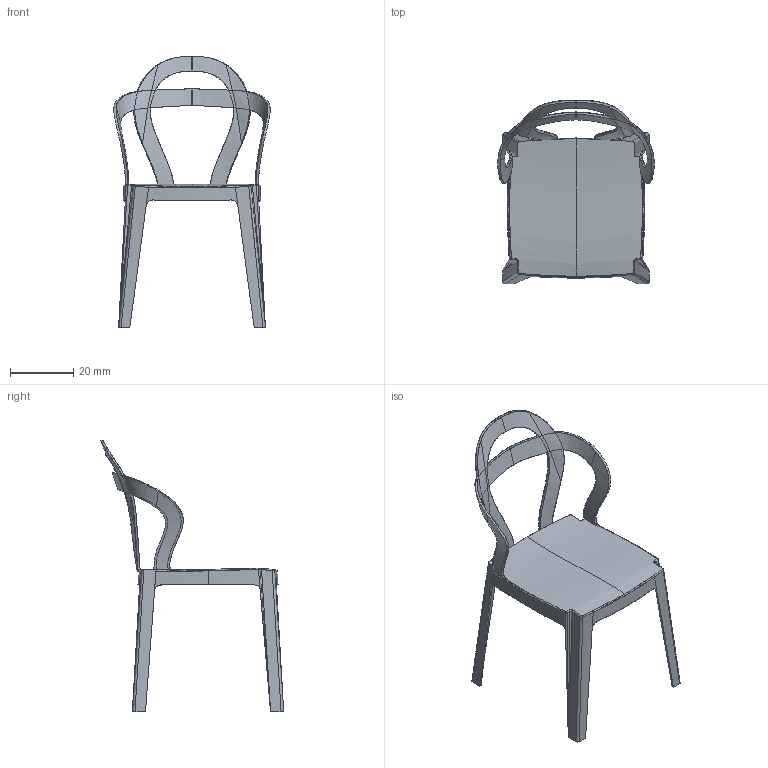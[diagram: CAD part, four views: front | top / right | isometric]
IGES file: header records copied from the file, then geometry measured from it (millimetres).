
Start section:  Autodesk AutoStudio for Windows version 2009 IGES version 5.3
Global section: file name: C:\Users\Administrator\Desktop\Tit; native system: Rhinoceros ( Feb 22 2008 ); preprocessor: Trout Lake IGES 012 Feb 22 2008; date: 111108.095752; units: millimetre
Bounding box: 49.57 x 58.08 x 86.05 mm (x, y, z)
Surface area: 6760.1 mm2 (no closed solid volume)
Topology: 0 solids, 0 shells, 116 faces, 1968 edges, 1976 vertices
Faces by surface type: bspline 116
